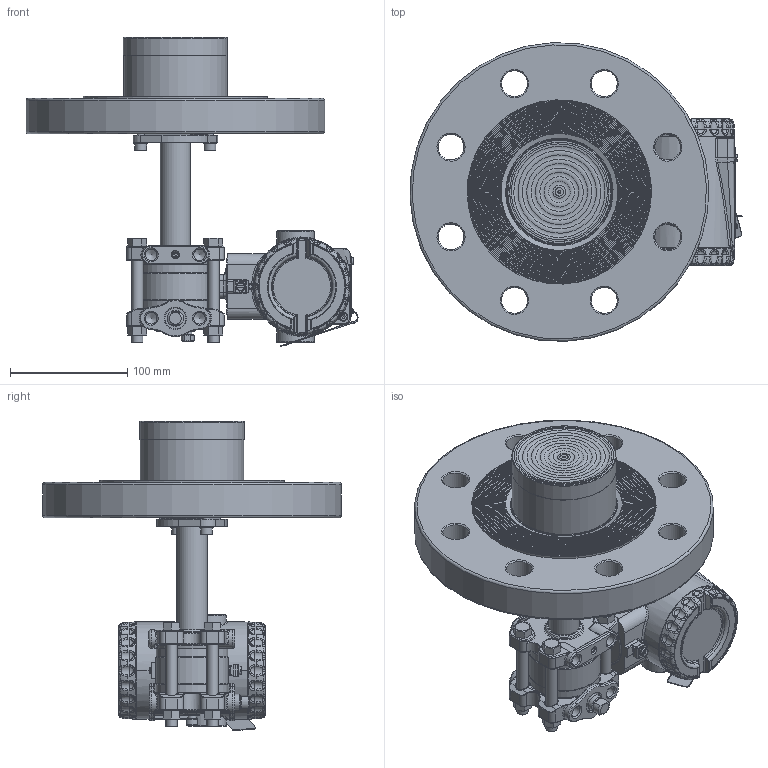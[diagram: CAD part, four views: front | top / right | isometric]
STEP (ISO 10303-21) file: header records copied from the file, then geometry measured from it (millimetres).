
FILE_DESCRIPTION(/* description */ (''),/* implementation_level */ '2;1');
FILE_NAME(/* name */ 'F:\Area\Desenvolvimento_2\Projects\Sensor\projetos\LD400-3d\dimensionais 3D clientes\LD400L\LD400L 4-300 RF ext 50 ref 1-4NPT purga acima.stp',/* time_stamp */ '2023-02-23T16:47:32-03:00',/* author */ ('inventor02'),/* organization */ (''),/* preprocessor_version */ 'ST-DEVELOPER v17',/* originating_system */ 'Autodesk Inventor 2019',/* authorisation */ '');
FILE_SCHEMA (('CONFIG_CONTROL_DESIGN'));
Products named in the file (41): LD30XL 4-300 RF ext 50 ref 1-4NPT purga acima; 204-0301-L-4 300 RF ext 50 purga acima; nivel fx3 com baixa diferencial 1-4NPT purga acima; involucro fx0-3 apos a usinagem final; flange diferencial std purga; 101-C-7484-01 flange selo nivel VR; 201-A-0504-tubo união teste 1; bujao 1-4NPT; Sangria; Porca 3-8 x 16 UNC; Paraf. 3-8 x 16 UNC; adaptação tubo x flanges 1-1-2 a 4pol; 101-B-0161-anel cortado do tubo - teste1; 101-B-0162-flange fixação tubo; ANSI B18.3.1M - M6x1 x 16; DIN 127 - A 6; flange 4 300 ext 50; 101-C-0123-09; 096-B-0212-15; 101-B-7702-02 ext 4-50; Carcaça 400 com tampas e plaqueta sem letras; 101-D-0845-05 carcaça LD400 sem letras; 101-B-3614-03-tampa 400 sem letras; Tampa visor 400 montada sem letras; 101-B-3612-05 tampa visor 400 sem letras; 101-A-6107; oring 2034; 00034775-0; WHW_250; DIN 915 - M6 x 10; Chapa aterramento externo; 201-A-1771-02 inserto terra recartilhado; AS 1969 - ST4,2; ISO 1207 - M4 x 8; ANSI B18.3.1M - M4x0,7 x 8; Subconjunto plaqueta 400; plaqueta 400 em branco; Parafuso da Plaqueta; Rebite da Plaqueta; 096-A-0169-03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
Assembly tree (50 placements, depth 4):
  LD30XL 4-300 RF ext 50 ref 1-4NPT purga acima
    204-0301-L-4 300 RF ext 50 purga acima
      nivel fx3 com baixa diferencial 1-4NPT purga acima
        involucro fx0-3 apos a usinagem final
        flange diferencial std purga
        101-C-7484-01 flange selo nivel VR
        201-A-0504-tubo união teste 1
        DIN 915 - M6 x 10
        bujao 1-4NPT
        Sangria
        Porca 3-8 x 16 UNC  x4
        Paraf. 3-8 x 16 UNC  x4
      adaptação tubo x flanges 1-1-2 a 4pol
        101-B-0161-anel cortado do tubo - teste1
        101-B-0162-flange fixação tubo
        ANSI B18.3.1M - M6x1 x 16  x2
        DIN 127 - A 6  x2
      flange 4 300 ext 50
        101-C-0123-09
        096-B-0212-15
        101-B-7702-02 ext 4-50
    Carcaça 400 com tampas e plaqueta sem letras
      101-D-0845-05 carcaça LD400 sem letras
      101-B-3614-03-tampa 400 sem letras
      Tampa visor 400 montada sem letras
        101-B-3612-05 tampa visor 400 sem letras
        101-A-6107
        oring 2034
        00034775-0
        WHW_250
      DIN 915 - M6 x 10
      Chapa aterramento externo
      201-A-1771-02 inserto terra recartilhado
      AS 1969 - ST4,2
      ISO 1207 - M4 x 8
      ANSI B18.3.1M - M4x0,7 x 8  x2
      Subconjunto plaqueta 400
        plaqueta 400 em branco
        Parafuso da Plaqueta
        Rebite da Plaqueta
        096-A-0169-03
        101-A-0502-01
Bounding box: 283.13 x 254.76 x 263.62 mm (x, y, z)
Volume: 2246748.6 mm3; surface area: 436437.9 mm2
Topology: 43 solids, 43 shells, 2834 faces, 6835 edges, 4112 vertices
Faces by surface type: plane 751, cylinder 668, bspline 604, torus 505, cone 230, sphere 76
Full cylindrical faces by diameter (mm): 2 x4, 2.1 x1, 2.2 x1, 2.459 x3, 2.5 x1, 2.7 x1, 2.8 x1, 3 x4, 3.242 x3, 3.5 x1, 3.571 x1, 4 x5, 4.3 x2, 4.4 x1, 4.917 x4, 5 x1, 5.5 x3, 6 x6, 6.1 x2, 6.2 x1, 6.647 x1, 7 x5, 7.6 x2, 7.798 x4, 8 x1, 9.525 x4, 9.728 x6, 10 x2, 10.5 x8, 10.719 x2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
Entity records: 100428 total; most frequent: CARTESIAN_POINT 37343, DIRECTION 13070, ORIENTED_EDGE 12910, EDGE_CURVE 6455, AXIS2_PLACEMENT_3D 5618, VERTEX_POINT 3918, CIRCLE 3271, EDGE_LOOP 2907
